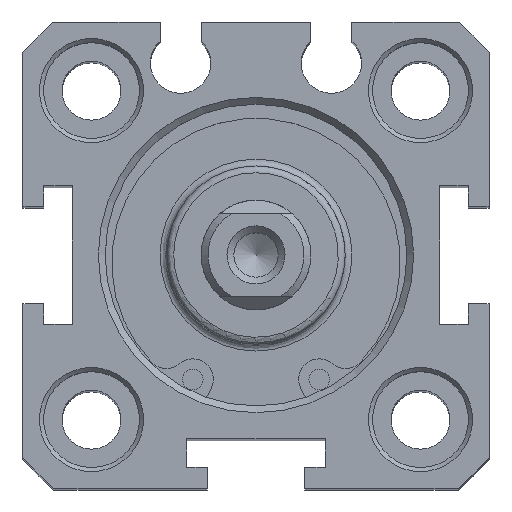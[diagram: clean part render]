
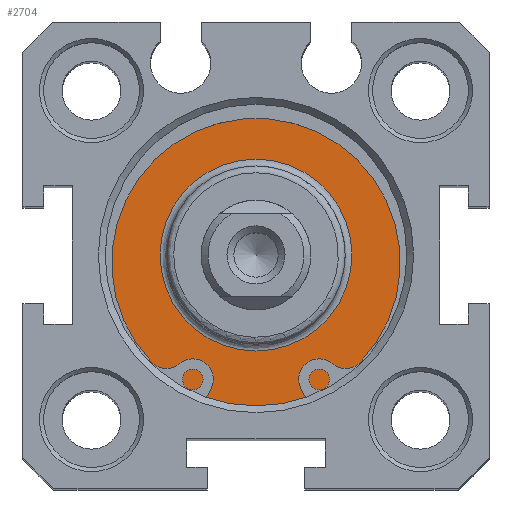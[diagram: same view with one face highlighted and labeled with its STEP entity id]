
A CAD part, top view. The second image highlights one B-rep face of the part: STEP entity #2704.
In plain terms, the highlighted planar face has unit normal (0, 0, 1).
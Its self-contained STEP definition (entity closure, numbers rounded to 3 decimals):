
#2653=CARTESIAN_POINT('',(0.24,8.683,76.8));
#2654=VERTEX_POINT('',#2653);
#2655=CARTESIAN_POINT('',(0.24,1.683,76.8));
#2656=DIRECTION('',(0.0,0.0,1.0));
#2657=DIRECTION('',(0.0,-1.0,0.0));
#2658=AXIS2_PLACEMENT_3D('',#2655,#2656,#2657);
#2659=CIRCLE('',#2658,7.);
#2660=EDGE_CURVE('',#2654,#2654,#2659,.T.);
#2685=CARTESIAN_POINT('',(0.24,10.433,76.8));
#2686=DIRECTION('',(0.0,0.0,1.0));
#2687=DIRECTION('',(1.0,0.0,0.0));
#2688=AXIS2_PLACEMENT_3D('',#2685,#2686,#2687);
#2689=PLANE('',#2688);
#2690=CARTESIAN_POINT('',(0.24,12.683,76.8));
#2691=VERTEX_POINT('',#2690);
#2692=CARTESIAN_POINT('',(0.24,1.683,76.8));
#2693=DIRECTION('',(0.0,0.0,-1.0));
#2694=DIRECTION('',(0.0,1.0,0.0));
#2695=AXIS2_PLACEMENT_3D('',#2692,#2693,#2694);
#2696=CIRCLE('',#2695,11.);
#2697=EDGE_CURVE('',#2691,#2691,#2696,.T.);
#2698=ORIENTED_EDGE('',*,*,#2697,.F.);
#2699=EDGE_LOOP('',(#2698));
#2700=FACE_OUTER_BOUND('',#2699,.T.);
#2701=ORIENTED_EDGE('',*,*,#2660,.F.);
#2702=EDGE_LOOP('',(#2701));
#2703=FACE_BOUND('',#2702,.T.);
#2704=ADVANCED_FACE('',(#2700,#2703),#2689,.T.);
